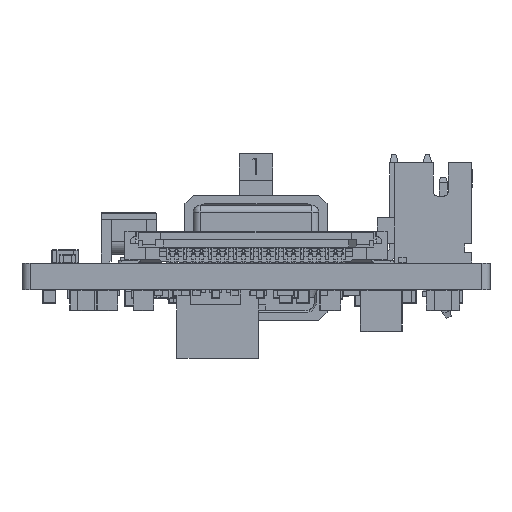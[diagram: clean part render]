
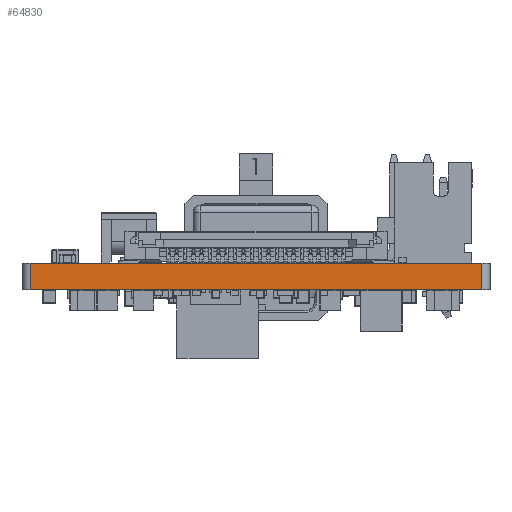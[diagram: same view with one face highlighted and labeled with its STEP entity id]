
A CAD part, front view. The second image highlights one B-rep face of the part: STEP entity #64830.
In plain terms, the highlighted planar face has unit normal (0, -1, 0).
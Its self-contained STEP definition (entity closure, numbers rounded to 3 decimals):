
#1527 = LINE ( 'NONE', #19445, #39082 ) ;
#4194 = DIRECTION ( 'NONE',  ( 0., 0., -1. ) ) ;
#4715 = LINE ( 'NONE', #19981, #60043 ) ;
#4726 = CARTESIAN_POINT ( 'NONE',  ( 0.5, 0., 0. ) ) ;
#14384 = DIRECTION ( 'NONE',  ( 0., 0., 1. ) ) ;
#17845 = CARTESIAN_POINT ( 'NONE',  ( 0.5, 0., 0. ) ) ;
#19445 = CARTESIAN_POINT ( 'NONE',  ( 27.5, 0., 1.6 ) ) ;
#19981 = CARTESIAN_POINT ( 'NONE',  ( 0.5, 0., 1.6 ) ) ;
#27007 = FACE_OUTER_BOUND ( 'NONE', #62025, .T. ) ;
#28331 = VERTEX_POINT ( 'NONE', #35447 ) ;
#29508 = EDGE_CURVE ( 'NONE', #31872, #98103, #64518, .T. ) ;
#31872 = VERTEX_POINT ( 'NONE', #103998 ) ;
#34732 = DIRECTION ( 'NONE',  ( 0., 0., -1. ) ) ;
#35447 = CARTESIAN_POINT ( 'NONE',  ( 27.5, 0., 0. ) ) ;
#37948 = DIRECTION ( 'NONE',  ( 1., 0., 0. ) ) ;
#39082 = VECTOR ( 'NONE', #34732, 1000. ) ;
#40280 = ORIENTED_EDGE ( 'NONE', *, *, #55896, .T. ) ;
#42272 = ORIENTED_EDGE ( 'NONE', *, *, #107187, .F. ) ;
#43758 = ORIENTED_EDGE ( 'NONE', *, *, #29508, .F. ) ;
#47723 = DIRECTION ( 'NONE',  ( 0., 1., 0. ) ) ;
#50926 = AXIS2_PLACEMENT_3D ( 'NONE', #54833, #47723, #14384 ) ;
#54382 = LINE ( 'NONE', #4726, #70634 ) ;
#54833 = CARTESIAN_POINT ( 'NONE',  ( 0.5, 0., 1.6 ) ) ;
#55896 = EDGE_CURVE ( 'NONE', #83654, #28331, #54382, .T. ) ;
#60043 = VECTOR ( 'NONE', #4194, 1000. ) ;
#60374 = PLANE ( 'NONE',  #50926 ) ;
#62025 = EDGE_LOOP ( 'NONE', ( #40280, #42272, #43758, #81044 ) ) ;
#62904 = DIRECTION ( 'NONE',  ( 1., 0., 0. ) ) ;
#64518 = LINE ( 'NONE', #73789, #94119 ) ;
#64830 = ADVANCED_FACE ( 'NONE', ( #27007 ), #60374, .F. ) ;
#70634 = VECTOR ( 'NONE', #37948, 1000. ) ;
#73789 = CARTESIAN_POINT ( 'NONE',  ( 0.5, 0., 1.6 ) ) ;
#78659 = CARTESIAN_POINT ( 'NONE',  ( 27.5, 0., 1.6 ) ) ;
#81044 = ORIENTED_EDGE ( 'NONE', *, *, #107376, .T. ) ;
#83654 = VERTEX_POINT ( 'NONE', #17845 ) ;
#94119 = VECTOR ( 'NONE', #62904, 1000. ) ;
#98103 = VERTEX_POINT ( 'NONE', #78659 ) ;
#103998 = CARTESIAN_POINT ( 'NONE',  ( 0.5, 0., 1.6 ) ) ;
#107187 = EDGE_CURVE ( 'NONE', #98103, #28331, #1527, .T. ) ;
#107376 = EDGE_CURVE ( 'NONE', #31872, #83654, #4715, .T. ) ;
